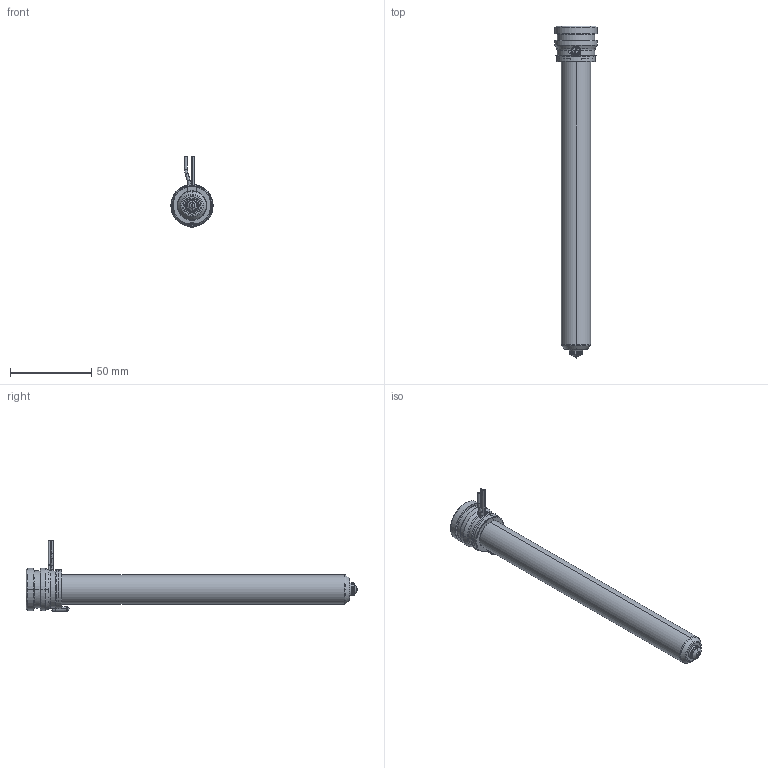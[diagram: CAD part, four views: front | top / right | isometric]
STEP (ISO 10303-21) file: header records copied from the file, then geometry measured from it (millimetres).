
FILE_DESCRIPTION((''),'2;1');
FILE_NAME('MPN-08-24-VSA8-186-A','2026-02-05T12:04:23',('UPTIO'),('Thermoplay S.p.A.'),'CREO PARAMETRIC BY PTC INC, 2023494','CREO PARAMETRIC BY PTC INC, 2023494','');
FILE_SCHEMA(('CONFIG_CONTROL_DESIGN','SHAPE_APPEARANCE_LAYERS_GROUPS'));
Length unit declared in the file: millimetre
Products named in the file (1): MPN-08-24-VSA8-186-A
Bounding box: 26 x 204 x 43.5 mm (x, y, z)
Volume: 37992.8 mm3; surface area: 49958.9 mm2
Topology: 2 solids, 3 shells, 543 faces, 1440 edges, 895 vertices
Faces by surface type: cylinder 182, plane 143, bspline 80, torus 62, cone 60, sphere 10, extrusion 6
Entity records: 29196 total; most frequent: CARTESIAN_POINT 12998, ORIENTED_EDGE 2864, DIRECTION 2580, EDGE_CURVE 1432, AXIS2_PLACEMENT_3D 1007, VERTEX_POINT 895, EDGE_LOOP 571, VECTOR 566
